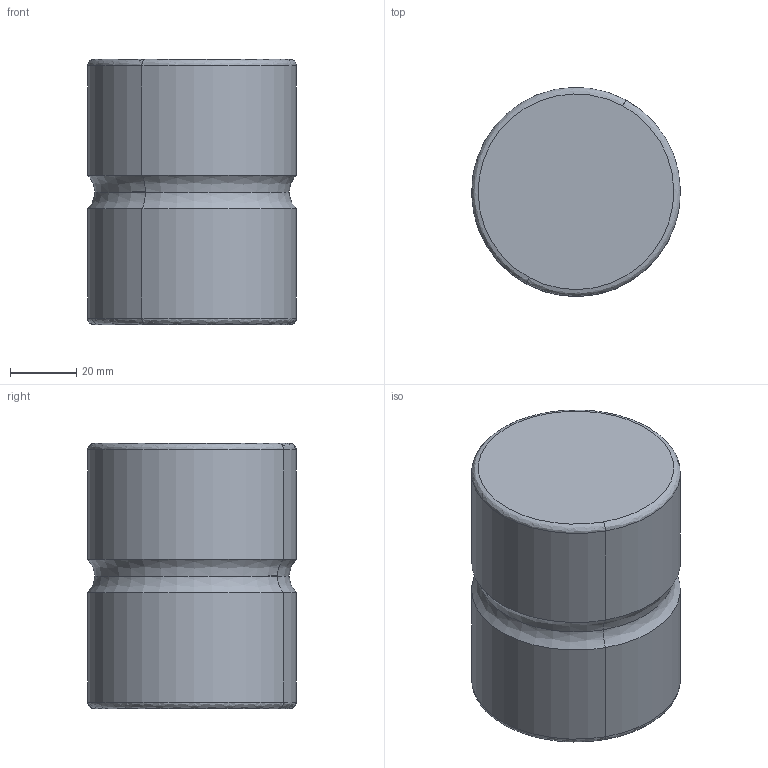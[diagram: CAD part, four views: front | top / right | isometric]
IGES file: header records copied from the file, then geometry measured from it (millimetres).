
Start section: START RECORD GO HERE.
Global section: file name: A519-63.igs; native system: DASSAULT SYSTEMES CATIA V5 R20 - www.3ds.com; preprocessor: CATIA Version 5 Release 20 ; author: Utente; organization: NB04-ASUS; date: 20211130.120832; units: millimetre
Bounding box: 62.98 x 62.98 x 80 mm (x, y, z)
Surface area: 21862.8 mm2 (no closed solid volume)
Topology: 0 solids, 0 shells, 14 faces, 52 edges, 52 vertices
Faces by surface type: revolution 12, plane 2
